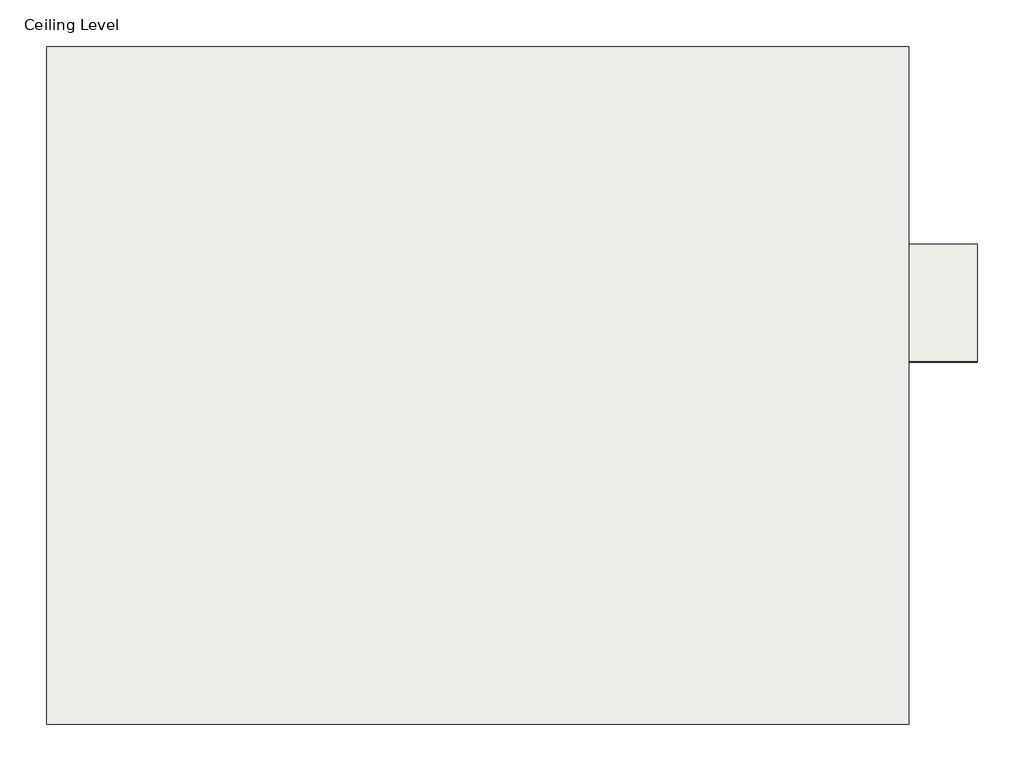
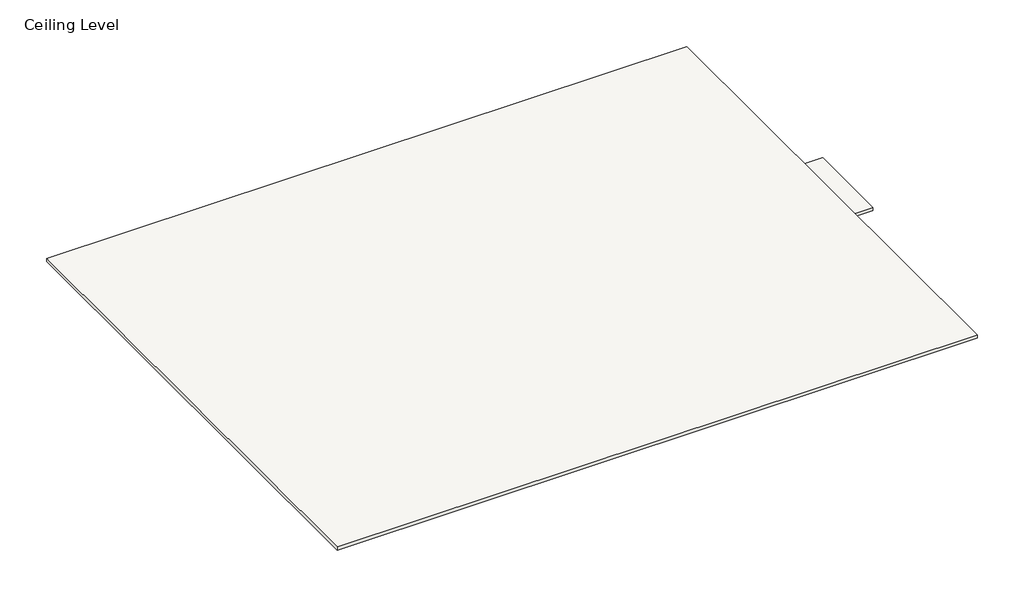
# One storey: 5 coverings.
"""IFC4 building model written with IfcOpenShell, lengths in millimetres."""

from ifc_helpers import new_model, si_unit, frame, origin, place, context, project, spatial, polyline, outline, extrude, element, save

model = new_model("IFC4")

# Units and contexts
model_context = context("Model", 3, world=origin())
ifc_project = project(units=[si_unit("LENGTHUNIT", "METRE", prefix="MILLI")], contexts=[model_context])

# Site, building, storey
site = spatial("IfcSite", under=ifc_project)
building = spatial("IfcBuilding", under=site)
storey = spatial("IfcBuildingStorey", under=building, Name="Ceiling Level", Elevation=0.0)

# Coverings
placement = place(None, origin())
element("IfcCovering", 1, ObjectType="Rockfon Ekla A24 (white) 675 x 675 mm", at=placement, inside=storey, context=model_context, shape_type="SweptSolid", body=[
    extrude(outline(polyline([(-7026.7423739, 8843.6758075), (-7026.7423739, 5943.6758075), (-10716.7423739, 5943.6758075), (-10716.7423739, 8843.6758075), (-7026.7423739, 8843.6758075)])), frame((0.0, 0.0, 1.0), z_axis=(0.0, 0.0, 1.0), x_axis=(1.0, 0.0, 0.0)), (0.0, 0.0, 1.0), 20.0),
])
element("IfcCovering", 2, ObjectType="Rockfon Ekla E24 (white) 1200 x 600 mm", at=placement, inside=storey, context=model_context, shape_type="SweptSolid", body=[
    extrude(outline(polyline([(-6733.0033126, 7992.3067246), (-6733.0033126, 7492.3067246), (-7133.0033126, 7492.3067246), (-7133.0033126, 7992.3067246), (-6733.0033126, 7992.3067246)])), frame((0.0, 0.0, -956.7370887), z_axis=(0.0, 0.0, 1.0), x_axis=(1.0, 0.0, 0.0)), (0.0, 0.0, 1.0), 20.0),
])
element("IfcCovering", 3, ObjectType="Rockfon Ekla E15 (white) 600 x 600 mm", at=placement, inside=storey, context=model_context, shape_type="SweptSolid", body=[
    extrude(outline(polyline([(-6733.0033126, 7993.9666451), (-6733.0033126, 7493.9666451), (-7133.0033126, 7493.9666451), (-7133.0033126, 7993.9666451), (-6733.0033126, 7993.9666451)])), frame((0.0, 0.0, -738.1422004), z_axis=(0.0, 0.0, 1.0), x_axis=(1.0, 0.0, 0.0)), (0.0, 0.0, 1.0), 20.0),
])
element("IfcCovering", 4, ObjectType="Rockfon Ekla A24 (white) 600 x 600 mm", at=placement, inside=storey, context=model_context, shape_type="SweptSolid", body=[
    extrude(outline(polyline([(-6733.0033126, 7997.4793902), (-6733.0033126, 7497.4793902), (-7133.0033126, 7497.4793902), (-7133.0033126, 7997.4793902), (-6733.0033126, 7997.4793902)])), frame((0.0, 0.0, -499.7475156), z_axis=(0.0, 0.0, 1.0), x_axis=(1.0, 0.0, 0.0)), (0.0, 0.0, 1.0), 20.0),
])
element("IfcCovering", 5, ObjectType="Rockfon Ekla A15 (white) 600 x 600 mm", at=placement, inside=storey, context=model_context, shape_type="SweptSolid", body=[
    extrude(outline(polyline([(-6733.0033126, 7997.4793902), (-6733.0033126, 7497.4793902), (-7133.0033126, 7497.4793902), (-7133.0033126, 7997.4793902), (-6733.0033126, 7997.4793902)])), frame((0.0, 0.0, -266.6682372), z_axis=(0.0, 0.0, 1.0), x_axis=(1.0, 0.0, 0.0)), (0.0, 0.0, 1.0), 20.0),
])

save(model, "model.ifc")
